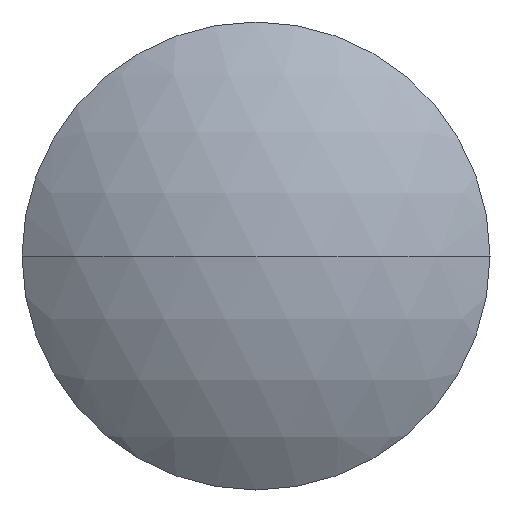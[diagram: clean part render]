
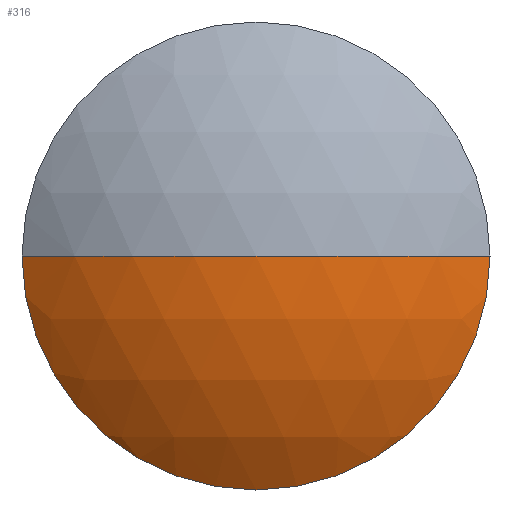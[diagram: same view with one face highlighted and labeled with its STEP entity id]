
A CAD part, left-side view. The second image highlights one B-rep face of the part: STEP entity #316.
In plain terms, the highlighted spherical face has radius 28.521 mm.
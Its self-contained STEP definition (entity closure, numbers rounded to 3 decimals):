
#9 = FACE_OUTER_BOUND ( 'NONE', #268, .T. ) ;
#11 = CARTESIAN_POINT ( 'NONE',  ( 20.521, 0., 0. ) ) ;
#14 = CARTESIAN_POINT ( 'NONE',  ( -2., -17.5, 0. ) ) ;
#21 = EDGE_CURVE ( 'NONE', #209, #73, #33, .T. ) ;
#22 = ORIENTED_EDGE ( 'NONE', *, *, #21, .T. ) ;
#33 = CIRCLE ( 'NONE', #340, 28.521 ) ;
#35 = CARTESIAN_POINT ( 'NONE',  ( -2., 0., -17.5 ) ) ;
#36 = DIRECTION ( 'NONE',  ( 0., 0., 1. ) ) ;
#42 = ORIENTED_EDGE ( 'NONE', *, *, #64, .T. ) ;
#52 = DIRECTION ( 'NONE',  ( 0., 1., 0. ) ) ;
#64 = EDGE_CURVE ( 'NONE', #271, #209, #310, .T. ) ;
#65 = DIRECTION ( 'NONE',  ( 0., 0., -1. ) ) ;
#73 = VERTEX_POINT ( 'NONE', #225 ) ;
#79 = CARTESIAN_POINT ( 'NONE',  ( 20.521, 0., 0. ) ) ;
#81 = CIRCLE ( 'NONE', #314, 17.5 ) ;
#82 = VERTEX_POINT ( 'NONE', #88 ) ;
#88 = CARTESIAN_POINT ( 'NONE',  ( -2., 17.5, 0. ) ) ;
#89 = DIRECTION ( 'NONE',  ( 0., 0., 1. ) ) ;
#94 = DIRECTION ( 'NONE',  ( -1., 0., 0. ) ) ;
#125 = CARTESIAN_POINT ( 'NONE',  ( -2., 0., 0. ) ) ;
#131 = ORIENTED_EDGE ( 'NONE', *, *, #279, .F. ) ;
#187 = DIRECTION ( 'NONE',  ( 0., 0., -1. ) ) ;
#188 = AXIS2_PLACEMENT_3D ( 'NONE', #11, #65, #335 ) ;
#209 = VERTEX_POINT ( 'NONE', #14 ) ;
#225 = CARTESIAN_POINT ( 'NONE',  ( -8., 0., 0. ) ) ;
#228 = SPHERICAL_SURFACE ( 'NONE', #188, 28.521 ) ;
#236 = CARTESIAN_POINT ( 'NONE',  ( 20.521, 0., 0. ) ) ;
#238 = CIRCLE ( 'NONE', #281, 28.521 ) ;
#248 = DIRECTION ( 'NONE',  ( 0., 0., 1. ) ) ;
#268 = EDGE_LOOP ( 'NONE', ( #348, #42, #22, #131 ) ) ;
#271 = VERTEX_POINT ( 'NONE', #35 ) ;
#279 = EDGE_CURVE ( 'NONE', #82, #73, #238, .T. ) ;
#281 = AXIS2_PLACEMENT_3D ( 'NONE', #236, #36, #284 ) ;
#284 = DIRECTION ( 'NONE',  ( 1., 0., 0. ) ) ;
#292 = EDGE_CURVE ( 'NONE', #82, #271, #81, .T. ) ;
#301 = AXIS2_PLACEMENT_3D ( 'NONE', #308, #333, #248 ) ;
#308 = CARTESIAN_POINT ( 'NONE',  ( -2., 0., 0. ) ) ;
#310 = CIRCLE ( 'NONE', #301, 17.5 ) ;
#314 = AXIS2_PLACEMENT_3D ( 'NONE', #125, #94, #89 ) ;
#316 = ADVANCED_FACE ( 'NONE', ( #9 ), #228, .T. ) ;
#333 = DIRECTION ( 'NONE',  ( -1., 0., 0. ) ) ;
#335 = DIRECTION ( 'NONE',  ( 0., 1., 0. ) ) ;
#340 = AXIS2_PLACEMENT_3D ( 'NONE', #79, #187, #52 ) ;
#348 = ORIENTED_EDGE ( 'NONE', *, *, #292, .T. ) ;
